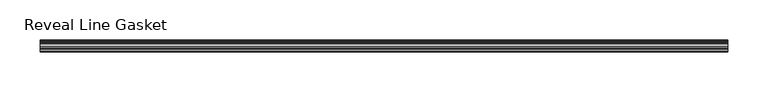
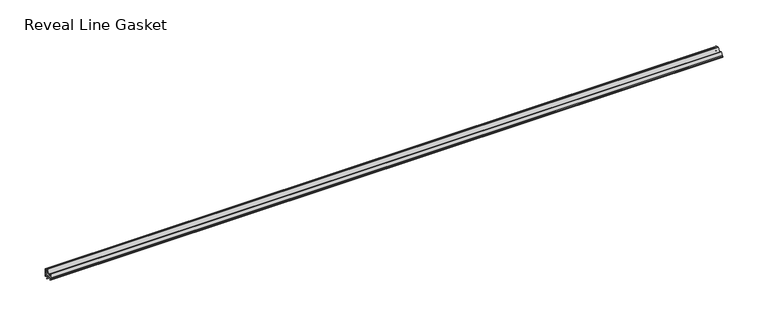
"""IFC4 building model written with IfcOpenShell, lengths in millimetres: proxy geometry, Accessories-Teknion-FHGR-AI_Healthcare-Reveal_Line_Gasket(Horizontal)-R2022 : Reveal Line Gasket."""

from ifc_helpers import new_model, si_unit, point, frame, frame_2d, origin, place, context, project, spatial, polyline, circle_curve, trimmed, segment, composite_curve, outline, extrude, source, transform, mapped, element, save


def reveal_line_gasket_4eab078e(model_context):
    return source(origin(), model_context, "Body", "SweptSolid", [
        extrude(outline(composite_curve([segment(polyline([(7.6326998, 1603.2), (7.6326998, 1597.2), (7.4091917, 1596.2445073), (6.8813059, 1595.3115316)]), True, "CONTINUOUS"), segment(trimmed(circle_curve(frame_2d((6.5243141, 1595.5135207)), 0.4101739), [point((6.8813059, 1595.3115316))], [point((6.1246704, 1595.6058653))], False, "CARTESIAN"), True, "CONTINUOUS"), segment(polyline([(6.1246704, 1595.6058653), (6.3626997, 1597.3020914), (6.3626997, 1599.3345473)]), True, "CONTINUOUS"), segment(trimmed(circle_curve(frame_2d((5.6959605, 1598.9180742)), 0.786124), [point((6.3626997, 1599.3345473))], [point((5.0926996, 1599.422125))], True, "CARTESIAN"), True, "CONTINUOUS"), segment(polyline([(5.0926996, 1599.422125), (0.7492996, 1599.422125), (3.7293824, 1594.2604705)]), True, "CONTINUOUS"), segment(trimmed(circle_curve(frame_2d((3.3132479, 1594.1950239)), 0.4212495), [point((3.7293824, 1594.2604705))], [point((3.0485022, 1593.8673642))], False, "CARTESIAN"), True, "CONTINUOUS"), segment(polyline([(3.0485022, 1593.8673642), (-0.5742594, 1599.422125), (-4.8262978, 1599.422125), (-3.1660374, 1596.5464703)]), True, "CONTINUOUS"), segment(trimmed(circle_curve(frame_2d((-3.5978728, 1596.4881145)), 0.4357605), [point((-3.1660374, 1596.5464703))], [point((-3.864328, 1596.1433119))], False, "CARTESIAN"), True, "CONTINUOUS"), segment(polyline([(-3.864328, 1596.1433119), (-6.1944059, 1599.422125), (-7.6326998, 1599.422125), (-7.6326998, 1600.977875), (-6.1944059, 1600.977875), (-3.864328, 1604.2566881)]), True, "CONTINUOUS"), segment(trimmed(circle_curve(frame_2d((-3.5978728, 1603.9118855)), 0.4357605), [point((-3.864328, 1604.2566881))], [point((-3.1660374, 1603.8535297))], False, "CARTESIAN"), True, "CONTINUOUS"), segment(polyline([(-3.1660374, 1603.8535297), (-4.8262978, 1600.977875), (-0.5742594, 1600.977875), (3.0485022, 1606.5326358)]), True, "CONTINUOUS"), segment(trimmed(circle_curve(frame_2d((3.3132479, 1606.2049761)), 0.4212495), [point((3.0485022, 1606.5326358))], [point((3.7293824, 1606.1395295))], False, "CARTESIAN"), True, "CONTINUOUS"), segment(polyline([(3.7293824, 1606.1395295), (0.7492996, 1600.977875), (5.0926996, 1600.977875)]), True, "CONTINUOUS"), segment(trimmed(circle_curve(frame_2d((5.6959605, 1601.4819258)), 0.786124), [point((5.0926996, 1600.977875))], [point((6.3626997, 1601.0654527))], True, "CARTESIAN"), True, "CONTINUOUS"), segment(polyline([(6.3626997, 1601.0654527), (6.3626997, 1603.0979086), (6.1246704, 1604.7941347)]), True, "CONTINUOUS"), segment(trimmed(circle_curve(frame_2d((6.5243141, 1604.8864793)), 0.4101739), [point((6.1246704, 1604.7941347))], [point((6.8813059, 1605.0884684))], False, "CARTESIAN"), True, "CONTINUOUS"), segment(polyline([(6.8813059, 1605.0884684), (7.4091917, 1604.1554927), (7.6326998, 1603.2)]), True, "CONTINUOUS")], self_intersect=False)), frame((-429.9204, 0.0, 0.0), z_axis=(1.0, 0.0, 0.0), x_axis=(0.0, 1.0, 0.0)), (0.0, 0.0, 1.0), 859.8408),
    ])


if __name__ == "__main__":
    model = new_model("IFC4")
    model_context = context("Model", 3, world=origin())
    ifc_project = project(units=[si_unit("LENGTHUNIT", "METRE", prefix="MILLI")], contexts=[model_context])
    site = spatial("IfcSite", under=ifc_project)
    building = spatial("IfcBuilding", under=site)
    placement = place(None, origin())
    reveal_line_gasket_shape = reveal_line_gasket_4eab078e(model_context)
    element("IfcBuildingElementProxy", 1, Name="Accessories-Teknion-FHGR-AI_Healthcare-Reveal_Line_Gasket(Horizontal)-R2022 : Reveal Line Gasket", ObjectType="Accessories-Teknion-FHGR-AI_Healthcare-Reveal_Line_Gasket(Horizontal)-R2022 : Reveal Line Gasket", at=placement, inside=building, context=model_context, shape_type="MappedRepresentation", body=[
        mapped(reveal_line_gasket_shape, transform((0.0, 0.0, 0.0), x_axis=(1.0, 0.0, 0.0), y_axis=(0.0, 1.0, 0.0), z_axis=(0.0, 0.0, 1.0))),
    ])
    save(model, "model.ifc")
